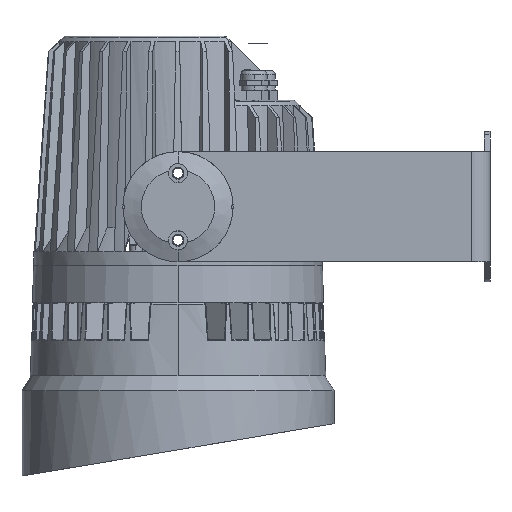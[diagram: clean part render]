
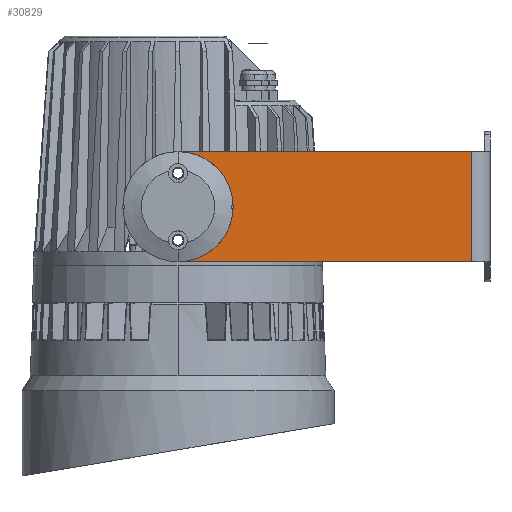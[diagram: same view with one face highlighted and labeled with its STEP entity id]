
A CAD part, front view. The second image highlights one B-rep face of the part: STEP entity #30829.
In plain terms, the highlighted planar face has unit normal (0, -1, 0).
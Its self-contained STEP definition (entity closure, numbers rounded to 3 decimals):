
#305 = CIRCLE ( 'NONE', #4537, 23. ) ;
#385 = CIRCLE ( 'NONE', #4554, 23. ) ;
#438 = VERTEX_POINT ( 'NONE', #22413 ) ;
#588 = VERTEX_POINT ( 'NONE', #15561 ) ;
#623 = LINE ( 'NONE', #10000, #993 ) ;
#993 = VECTOR ( 'NONE', #19196, 1000. ) ;
#1652 = CARTESIAN_POINT ( 'NONE',  ( 0., -88., 101.2 ) ) ;
#4189 = AXIS2_PLACEMENT_3D ( 'NONE', #28594, #28327, #28057 ) ;
#4537 = AXIS2_PLACEMENT_3D ( 'NONE', #23047, #22937, #22779 ) ;
#4554 = AXIS2_PLACEMENT_3D ( 'NONE', #30173, #30279, #30113 ) ;
#5245 = EDGE_CURVE ( 'NONE', #438, #588, #623, .T. ) ;
#5365 = EDGE_CURVE ( 'NONE', #13479, #43532, #385, .T. ) ;
#5371 = EDGE_CURVE ( 'NONE', #43532, #13479, #305, .T. ) ;
#5465 = VERTEX_POINT ( 'NONE', #19509 ) ;
#5616 = EDGE_CURVE ( 'NONE', #438, #65357, #80157, .T. ) ;
#5718 = EDGE_CURVE ( 'NONE', #5465, #65357, #80860, .T. ) ;
#5723 = EDGE_CURVE ( 'NONE', #5465, #588, #80226, .T. ) ;
#6772 = AXIS2_PLACEMENT_3D ( 'NONE', #32341, #7352, #51776 ) ;
#7352 = DIRECTION ( 'NONE',  ( 0., -1., 0. ) ) ;
#10000 = CARTESIAN_POINT ( 'NONE',  ( 160., -88., 30.2 ) ) ;
#13479 = VERTEX_POINT ( 'NONE', #75067 ) ;
#15561 = CARTESIAN_POINT ( 'NONE',  ( 160., -88., 41.2 ) ) ;
#15686 = FACE_OUTER_BOUND ( 'NONE', #76340, .T. ) ;
#16546 = FACE_BOUND ( 'NONE', #75929, .T. ) ;
#19196 = DIRECTION ( 'NONE',  ( 0., 0., -1. ) ) ;
#19509 = CARTESIAN_POINT ( 'NONE',  ( 0., -88., 41.2 ) ) ;
#22413 = CARTESIAN_POINT ( 'NONE',  ( 160., -88., 101.2 ) ) ;
#22779 = DIRECTION ( 'NONE',  ( 0., 0., -1. ) ) ;
#22937 = DIRECTION ( 'NONE',  ( 0., 1., 0. ) ) ;
#23047 = CARTESIAN_POINT ( 'NONE',  ( 0., -88., 71.2 ) ) ;
#23642 = ORIENTED_EDGE ( 'NONE', *, *, #5718, .F. ) ;
#27230 = CARTESIAN_POINT ( 'NONE',  ( 0., -88., 41.2 ) ) ;
#28057 = DIRECTION ( 'NONE',  ( 0., 0., -1. ) ) ;
#28327 = DIRECTION ( 'NONE',  ( 0., 1., 0. ) ) ;
#28594 = CARTESIAN_POINT ( 'NONE',  ( 0., -88., 71.2 ) ) ;
#30113 = DIRECTION ( 'NONE',  ( 0., 0., -1. ) ) ;
#30173 = CARTESIAN_POINT ( 'NONE',  ( 0., -88., 71.2 ) ) ;
#30279 = DIRECTION ( 'NONE',  ( 0., 1., 0. ) ) ;
#30829 = ADVANCED_FACE ( 'NONE', ( #16546, #15686 ), #45480, .T. ) ;
#32341 = CARTESIAN_POINT ( 'NONE',  ( -30., -88., 30.2 ) ) ;
#35533 = DIRECTION ( 'NONE',  ( 1., 0., 0. ) ) ;
#37235 = ORIENTED_EDGE ( 'NONE', *, *, #5723, .T. ) ;
#39172 = ORIENTED_EDGE ( 'NONE', *, *, #5371, .T. ) ;
#43532 = VERTEX_POINT ( 'NONE', #67171 ) ;
#45480 = PLANE ( 'NONE',  #6772 ) ;
#47048 = DIRECTION ( 'NONE',  ( -1., 0., 0. ) ) ;
#47863 = CARTESIAN_POINT ( 'NONE',  ( 81.421, -88., 101.2 ) ) ;
#51776 = DIRECTION ( 'NONE',  ( 0., 0., 1. ) ) ;
#51850 = ORIENTED_EDGE ( 'NONE', *, *, #5616, .T. ) ;
#57776 = ORIENTED_EDGE ( 'NONE', *, *, #5245, .F. ) ;
#65357 = VERTEX_POINT ( 'NONE', #1652 ) ;
#67171 = CARTESIAN_POINT ( 'NONE',  ( 0., -88., 94.2 ) ) ;
#67298 = ORIENTED_EDGE ( 'NONE', *, *, #5365, .T. ) ;
#75067 = CARTESIAN_POINT ( 'NONE',  ( 0., -88., 48.2 ) ) ;
#75929 = EDGE_LOOP ( 'NONE', ( #67298, #39172 ) ) ;
#76340 = EDGE_LOOP ( 'NONE', ( #57776, #51850, #23642, #37235 ) ) ;
#79783 = VECTOR ( 'NONE', #35533, 1000. ) ;
#80078 = VECTOR ( 'NONE', #47048, 1000. ) ;
#80157 = LINE ( 'NONE', #47863, #80078 ) ;
#80226 = LINE ( 'NONE', #27230, #79783 ) ;
#80860 = CIRCLE ( 'NONE', #4189, 30. ) ;
